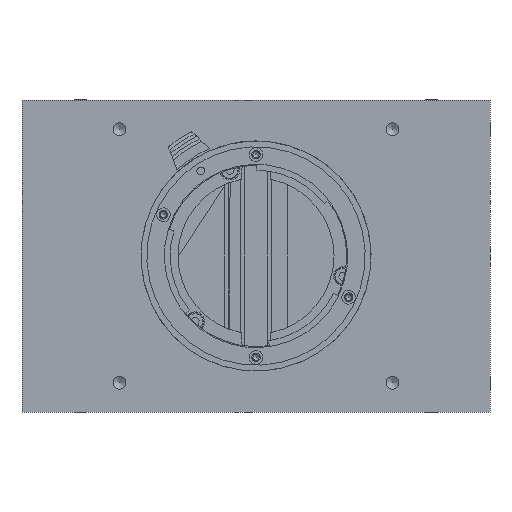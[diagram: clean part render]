
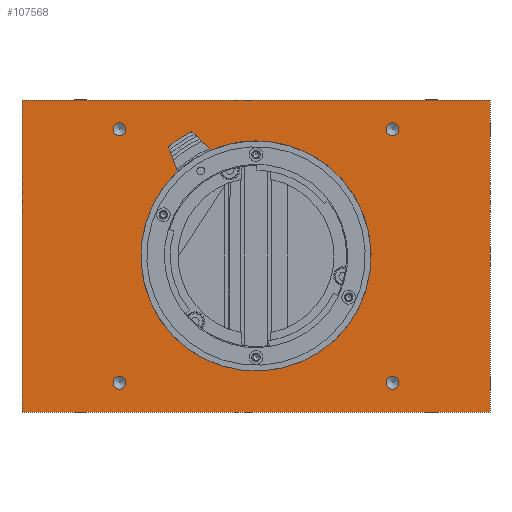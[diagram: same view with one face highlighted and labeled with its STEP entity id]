
A CAD part, left-side view. The second image highlights one B-rep face of the part: STEP entity #107568.
In plain terms, the highlighted planar face has unit normal (-1, 0, 0).
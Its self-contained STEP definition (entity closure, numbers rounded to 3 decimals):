
#2573 = EDGE_CURVE ( 'NONE', #97633, #9895, #155381, .T. ) ;
#9015 = EDGE_LOOP ( 'NONE', ( #214856 ) ) ;
#9895 = VERTEX_POINT ( 'NONE', #182325 ) ;
#10906 = CIRCLE ( 'NONE', #153891, 1.65 ) ;
#13091 = CIRCLE ( 'NONE', #82640, 1.65 ) ;
#17850 = EDGE_CURVE ( 'NONE', #166508, #75660, #151552, .T. ) ;
#18543 = CARTESIAN_POINT ( 'NONE',  ( 0., 60., 40. ) ) ;
#21059 = CARTESIAN_POINT ( 'NONE',  ( 0., 35., -30.85 ) ) ;
#23980 = CARTESIAN_POINT ( 'NONE',  ( 0., -60., -40. ) ) ;
#26715 = CARTESIAN_POINT ( 'NONE',  ( 0., -35., 34.15 ) ) ;
#30146 = DIRECTION ( 'NONE',  ( 0., 0., 1. ) ) ;
#40639 = EDGE_CURVE ( 'NONE', #9895, #166508, #164540, .T. ) ;
#50967 = ORIENTED_EDGE ( 'NONE', *, *, #63369, .F. ) ;
#51048 = ORIENTED_EDGE ( 'NONE', *, *, #74997, .F. ) ;
#53736 = AXIS2_PLACEMENT_3D ( 'NONE', #88911, #180315, #89835 ) ;
#57075 = LINE ( 'NONE', #206768, #280926 ) ;
#58461 = ORIENTED_EDGE ( 'NONE', *, *, #211940, .F. ) ;
#63369 = EDGE_CURVE ( 'NONE', #88960, #88960, #234978, .T. ) ;
#69467 = VECTOR ( 'NONE', #173190, 1000. ) ;
#70704 = CARTESIAN_POINT ( 'NONE',  ( 0., 35., 32.5 ) ) ;
#74997 = EDGE_CURVE ( 'NONE', #260630, #260630, #13091, .T. ) ;
#75660 = VERTEX_POINT ( 'NONE', #180948 ) ;
#78647 = FACE_BOUND ( 'NONE', #247018, .T. ) ;
#82640 = AXIS2_PLACEMENT_3D ( 'NONE', #70704, #112160, #245937 ) ;
#88911 = CARTESIAN_POINT ( 'NONE',  ( 0., 35., -32.5 ) ) ;
#88960 = VERTEX_POINT ( 'NONE', #21059 ) ;
#89835 = DIRECTION ( 'NONE',  ( 0., 0., 1. ) ) ;
#95826 = DIRECTION ( 'NONE',  ( 0., 1., 0. ) ) ;
#96043 = CARTESIAN_POINT ( 'NONE',  ( 0., 0., 0. ) ) ;
#97633 = VERTEX_POINT ( 'NONE', #18543 ) ;
#99136 = VERTEX_POINT ( 'NONE', #231002 ) ;
#102058 = ORIENTED_EDGE ( 'NONE', *, *, #40639, .F. ) ;
#107568 = ADVANCED_FACE ( 'NONE', ( #240541, #275076, #123306, #78647, #230316, #254349 ), #205897, .F. ) ;
#112160 = DIRECTION ( 'NONE',  ( -1., 0., 0. ) ) ;
#114136 = ORIENTED_EDGE ( 'NONE', *, *, #17850, .F. ) ;
#118885 = DIRECTION ( 'NONE',  ( -1., 0., 0. ) ) ;
#119101 = DIRECTION ( 'NONE',  ( 0., 0., 1. ) ) ;
#119290 = CARTESIAN_POINT ( 'NONE',  ( 0., -35., -30.85 ) ) ;
#123306 = FACE_BOUND ( 'NONE', #143611, .T. ) ;
#124166 = ORIENTED_EDGE ( 'NONE', *, *, #257221, .F. ) ;
#132789 = DIRECTION ( 'NONE',  ( -1., 0., 0. ) ) ;
#133949 = EDGE_LOOP ( 'NONE', ( #51048 ) ) ;
#139645 = CIRCLE ( 'NONE', #140789, 27.8 ) ;
#140789 = AXIS2_PLACEMENT_3D ( 'NONE', #224837, #118885, #30146 ) ;
#141168 = EDGE_LOOP ( 'NONE', ( #172859, #124166, #114136, #102058 ) ) ;
#141530 = CIRCLE ( 'NONE', #225620, 1.65 ) ;
#143611 = EDGE_LOOP ( 'NONE', ( #58461 ) ) ;
#147443 = VERTEX_POINT ( 'NONE', #26715 ) ;
#151552 = LINE ( 'NONE', #229748, #234243 ) ;
#153891 = AXIS2_PLACEMENT_3D ( 'NONE', #176824, #263566, #178696 ) ;
#154034 = CARTESIAN_POINT ( 'NONE',  ( 0., -35., 32.5 ) ) ;
#155381 = LINE ( 'NONE', #194391, #69467 ) ;
#162525 = DIRECTION ( 'NONE',  ( 1., 0., 0. ) ) ;
#164540 = LINE ( 'NONE', #227591, #274830 ) ;
#164948 = DIRECTION ( 'NONE',  ( 0., 0., -1. ) ) ;
#166508 = VERTEX_POINT ( 'NONE', #23980 ) ;
#168081 = EDGE_CURVE ( 'NONE', #147443, #147443, #141530, .T. ) ;
#172428 = DIRECTION ( 'NONE',  ( 0., 0., 1. ) ) ;
#172859 = ORIENTED_EDGE ( 'NONE', *, *, #2573, .F. ) ;
#173190 = DIRECTION ( 'NONE',  ( 0., -1., 0. ) ) ;
#174338 = CARTESIAN_POINT ( 'NONE',  ( 0., 35., 34.15 ) ) ;
#176824 = CARTESIAN_POINT ( 'NONE',  ( 0., -35., -32.5 ) ) ;
#178696 = DIRECTION ( 'NONE',  ( 0., 0., 1. ) ) ;
#180315 = DIRECTION ( 'NONE',  ( -1., 0., 0. ) ) ;
#180948 = CARTESIAN_POINT ( 'NONE',  ( 0., 60., -40. ) ) ;
#182325 = CARTESIAN_POINT ( 'NONE',  ( 0., -60., 40. ) ) ;
#185628 = EDGE_LOOP ( 'NONE', ( #194228 ) ) ;
#194228 = ORIENTED_EDGE ( 'NONE', *, *, #209107, .F. ) ;
#194391 = CARTESIAN_POINT ( 'NONE',  ( 0., 60., 40. ) ) ;
#205897 = PLANE ( 'NONE',  #208472 ) ;
#206768 = CARTESIAN_POINT ( 'NONE',  ( 0., 60., 40. ) ) ;
#208472 = AXIS2_PLACEMENT_3D ( 'NONE', #96043, #162525, #272341 ) ;
#209107 = EDGE_CURVE ( 'NONE', #99136, #99136, #139645, .T. ) ;
#211940 = EDGE_CURVE ( 'NONE', #274917, #274917, #10906, .T. ) ;
#214856 = ORIENTED_EDGE ( 'NONE', *, *, #168081, .F. ) ;
#224837 = CARTESIAN_POINT ( 'NONE',  ( 0., 0., 0. ) ) ;
#225620 = AXIS2_PLACEMENT_3D ( 'NONE', #154034, #132789, #172428 ) ;
#227591 = CARTESIAN_POINT ( 'NONE',  ( 0., -60., 40. ) ) ;
#229748 = CARTESIAN_POINT ( 'NONE',  ( 0., 60., -40. ) ) ;
#230316 = FACE_BOUND ( 'NONE', #185628, .T. ) ;
#231002 = CARTESIAN_POINT ( 'NONE',  ( 0., 0., 27.8 ) ) ;
#234243 = VECTOR ( 'NONE', #95826, 1000. ) ;
#234978 = CIRCLE ( 'NONE', #53736, 1.65 ) ;
#240541 = FACE_BOUND ( 'NONE', #9015, .T. ) ;
#245937 = DIRECTION ( 'NONE',  ( 0., 0., 1. ) ) ;
#247018 = EDGE_LOOP ( 'NONE', ( #50967 ) ) ;
#254349 = FACE_OUTER_BOUND ( 'NONE', #141168, .T. ) ;
#257221 = EDGE_CURVE ( 'NONE', #75660, #97633, #57075, .T. ) ;
#260630 = VERTEX_POINT ( 'NONE', #174338 ) ;
#263566 = DIRECTION ( 'NONE',  ( -1., 0., 0. ) ) ;
#272341 = DIRECTION ( 'NONE',  ( 0., 0., -1. ) ) ;
#274830 = VECTOR ( 'NONE', #164948, 1000. ) ;
#274917 = VERTEX_POINT ( 'NONE', #119290 ) ;
#275076 = FACE_BOUND ( 'NONE', #133949, .T. ) ;
#280926 = VECTOR ( 'NONE', #119101, 1000. ) ;
